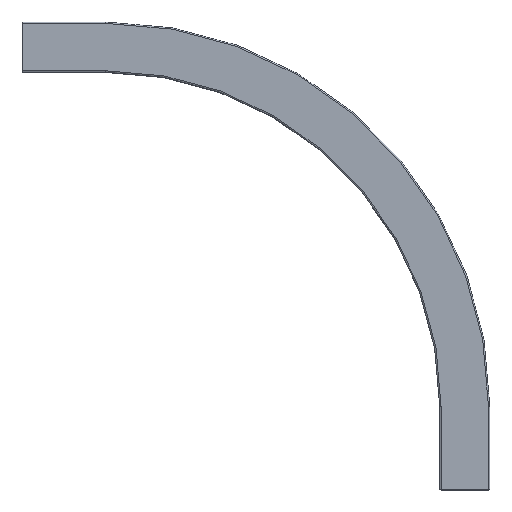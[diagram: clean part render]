
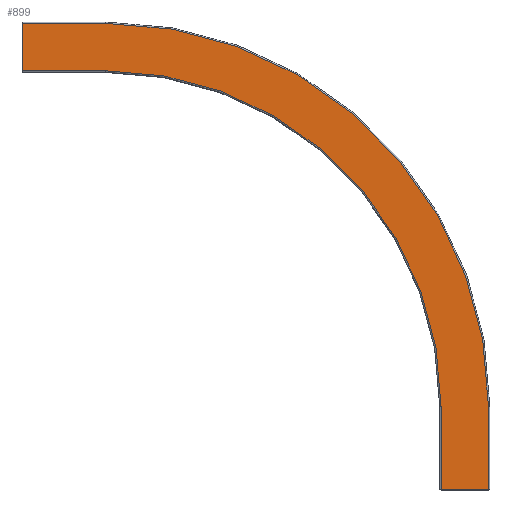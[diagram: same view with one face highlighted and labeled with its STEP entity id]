
A CAD part, top view. The second image highlights one B-rep face of the part: STEP entity #899.
In plain terms, the highlighted planar face has unit normal (0, 0, 1).
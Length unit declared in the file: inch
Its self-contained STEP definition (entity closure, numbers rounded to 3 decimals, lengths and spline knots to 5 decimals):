
#752 = VERTEX_POINT ( 'NONE', #2448 ) ;
#753 = ORIENTED_EDGE ( 'NONE', *, *, #754, .T. ) ;
#754 = EDGE_CURVE ( 'NONE', #752, #755, #2421, .T. ) ;
#755 = VERTEX_POINT ( 'NONE', #2422 ) ;
#857 = EDGE_CURVE ( 'NONE', #864, #861, #2395, .T. ) ;
#858 = ORIENTED_EDGE ( 'NONE', *, *, #1141, .T. ) ;
#861 = VERTEX_POINT ( 'NONE', #2385 ) ;
#862 = VERTEX_POINT ( 'NONE', #2384 ) ;
#864 = VERTEX_POINT ( 'NONE', #2383 ) ;
#866 = VERTEX_POINT ( 'NONE', #2382 ) ;
#867 = EDGE_CURVE ( 'NONE', #755, #866, #2341, .T. ) ;
#898 = ORIENTED_EDGE ( 'NONE', *, *, #867, .T. ) ;
#899 = ADVANCED_FACE ( 'NONE', ( #2568 ), #2689, .F. ) ;
#900 = EDGE_LOOP ( 'NONE', ( #1054, #1136, #1032, #858, #1051, #914, #753, #898 ) ) ;
#912 = EDGE_CURVE ( 'NONE', #866, #862, #2669, .T. ) ;
#913 = VERTEX_POINT ( 'NONE', #2661 ) ;
#914 = ORIENTED_EDGE ( 'NONE', *, *, #915, .T. ) ;
#915 = EDGE_CURVE ( 'NONE', #913, #752, #2559, .T. ) ;
#1031 = EDGE_CURVE ( 'NONE', #862, #864, #2723, .T. ) ;
#1032 = ORIENTED_EDGE ( 'NONE', *, *, #857, .T. ) ;
#1051 = ORIENTED_EDGE ( 'NONE', *, *, #1052, .F. ) ;
#1052 = EDGE_CURVE ( 'NONE', #913, #1142, #2719, .T. ) ;
#1054 = ORIENTED_EDGE ( 'NONE', *, *, #912, .T. ) ;
#1136 = ORIENTED_EDGE ( 'NONE', *, *, #1031, .T. ) ;
#1141 = EDGE_CURVE ( 'NONE', #861, #1142, #2706, .T. ) ;
#1142 = VERTEX_POINT ( 'NONE', #2697 ) ;
#2311 = DIRECTION ( 'NONE',  ( -1., 0., 0. ) ) ;
#2312 = DIRECTION ( 'NONE',  ( 0., 0., 1. ) ) ;
#2338 = DIRECTION ( 'NONE',  ( -1., 0., 0. ) ) ;
#2339 = VECTOR ( 'NONE', #2338, 39.37008 ) ;
#2340 = CARTESIAN_POINT ( 'NONE',  ( 0., 11.46, 6. ) ) ;
#2341 = LINE ( 'NONE', #2340, #2339 ) ;
#2381 = CARTESIAN_POINT ( 'NONE',  ( 0., 0., 6. ) ) ;
#2382 = CARTESIAN_POINT ( 'NONE',  ( -2.5, 11.46, 6. ) ) ;
#2383 = CARTESIAN_POINT ( 'NONE',  ( 0., 10.04, 6. ) ) ;
#2384 = CARTESIAN_POINT ( 'NONE',  ( -2.5, 10.04, 6. ) ) ;
#2385 = CARTESIAN_POINT ( 'NONE',  ( 10.04, 0., 6. ) ) ;
#2391 = DIRECTION ( 'NONE',  ( -1., 0., 0. ) ) ;
#2392 = DIRECTION ( 'NONE',  ( 0., 0., -1. ) ) ;
#2393 = CARTESIAN_POINT ( 'NONE',  ( 0., 0., 6. ) ) ;
#2394 = AXIS2_PLACEMENT_3D ( 'NONE', #2393, #2392, #2391 ) ;
#2395 = CIRCLE ( 'NONE', #2394, 10.04 ) ;
#2420 = AXIS2_PLACEMENT_3D ( 'NONE', #2381, #2312, #2311 ) ;
#2421 = CIRCLE ( 'NONE', #2420, 11.46 ) ;
#2422 = CARTESIAN_POINT ( 'NONE',  ( 0., 11.46, 6. ) ) ;
#2448 = CARTESIAN_POINT ( 'NONE',  ( 11.46, 0., 6. ) ) ;
#2556 = DIRECTION ( 'NONE',  ( 0., 1., 0. ) ) ;
#2557 = VECTOR ( 'NONE', #2556, 39.37008 ) ;
#2558 = CARTESIAN_POINT ( 'NONE',  ( 11.46, 0., 6. ) ) ;
#2559 = LINE ( 'NONE', #2558, #2557 ) ;
#2568 = FACE_OUTER_BOUND ( 'NONE', #900, .T. ) ;
#2661 = CARTESIAN_POINT ( 'NONE',  ( 11.46, -2.5, 6. ) ) ;
#2662 = DIRECTION ( 'NONE',  ( 0., -1., 0. ) ) ;
#2663 = VECTOR ( 'NONE', #2662, 39.37008 ) ;
#2664 = CARTESIAN_POINT ( 'NONE',  ( -2.5, 10., 6. ) ) ;
#2669 = LINE ( 'NONE', #2664, #2663 ) ;
#2685 = DIRECTION ( 'NONE',  ( -1., 0., 0. ) ) ;
#2686 = DIRECTION ( 'NONE',  ( 0., 0., -1. ) ) ;
#2687 = CARTESIAN_POINT ( 'NONE',  ( 0., 10., 6. ) ) ;
#2688 = AXIS2_PLACEMENT_3D ( 'NONE', #2687, #2686, #2685 ) ;
#2689 = PLANE ( 'NONE',  #2688 ) ;
#2697 = CARTESIAN_POINT ( 'NONE',  ( 10.04, -2.5, 6. ) ) ;
#2698 = DIRECTION ( 'NONE',  ( 0., -1., 0. ) ) ;
#2699 = VECTOR ( 'NONE', #2698, 39.37008 ) ;
#2700 = CARTESIAN_POINT ( 'NONE',  ( 10.04, -2.5, 6. ) ) ;
#2706 = LINE ( 'NONE', #2700, #2699 ) ;
#2716 = DIRECTION ( 'NONE',  ( -1., 0., 0. ) ) ;
#2717 = VECTOR ( 'NONE', #2716, 39.37008 ) ;
#2718 = CARTESIAN_POINT ( 'NONE',  ( 10., -2.5, 6. ) ) ;
#2719 = LINE ( 'NONE', #2718, #2717 ) ;
#2720 = DIRECTION ( 'NONE',  ( 1., 0., 0. ) ) ;
#2721 = VECTOR ( 'NONE', #2720, 39.37008 ) ;
#2722 = CARTESIAN_POINT ( 'NONE',  ( 0., 10.04, 6. ) ) ;
#2723 = LINE ( 'NONE', #2722, #2721 ) ;
